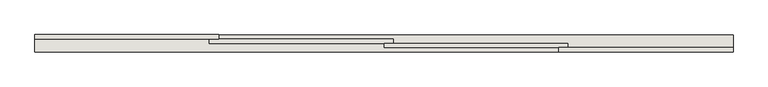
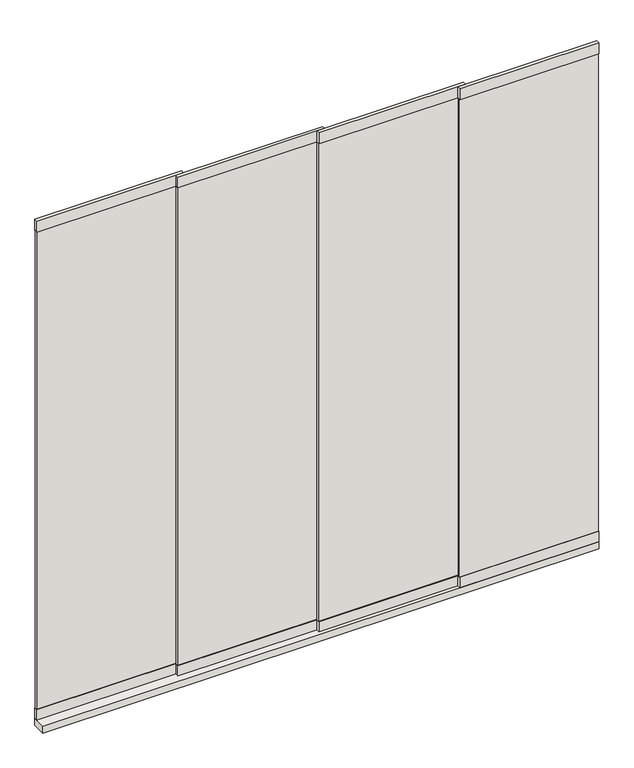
"""IFC4 building model written with IfcOpenShell, lengths in millimetres: wall geometry, Renson_Camargue_Glass_Sliding_Panel : Renson_Camargue_Glass_Sliding_Panel."""

from ifc_helpers import new_model, si_unit, frame, origin, origin_with_axes, place, context, project, spatial, polyline, outline, extrude, source, transform, mapped, element, save


def wall_8333f241(model_context):
    return source(origin(), model_context, "Body", "SweptSolid", [
        extrude(outline(polyline([(750.0, 0.0), (-1850.0, 0.0), (-1850.0, 64.0), (750.0, 64.0), (750.0, 0.0)])), origin_with_axes(), (0.0, 0.0, 1.0), 35.0),
        extrude(outline(polyline([(750.0, 3.0), (100.0, 3.0), (100.0, 13.0), (750.0, 13.0), (750.0, 3.0)])), frame((0.0, 0.0, 86.0), z_axis=(0.0, 0.0, 1.0), x_axis=(1.0, 0.0, 0.0)), (0.0, 0.0, 1.0), 2360.0),
        extrude(outline(polyline([(135.0, 19.0), (-550.0, 19.0), (-550.0, 29.0), (135.0, 29.0), (135.0, 19.0)])), frame((0.0, 0.0, 86.0), z_axis=(0.0, 0.0, 1.0), x_axis=(1.0, 0.0, 0.0)), (0.0, 0.0, 1.0), 2360.0),
        extrude(outline(polyline([(-1165.0, 51.0), (-1850.0, 51.0), (-1850.0, 61.0), (-1165.0, 61.0), (-1165.0, 51.0)])), frame((0.0, 0.0, 86.0), z_axis=(0.0, 0.0, 1.0), x_axis=(1.0, 0.0, 0.0)), (0.0, 0.0, 1.0), 2360.0),
        extrude(outline(polyline([(-1165.0, 48.0), (-1850.0, 48.0), (-1850.0, 64.0), (-1165.0, 64.0), (-1165.0, 48.0)])), frame((0.0, 0.0, 2446.0), z_axis=(0.0, 0.0, 1.0), x_axis=(1.0, 0.0, 0.0)), (0.0, 0.0, 1.0), 54.0),
        extrude(outline(polyline([(-1165.0, 48.0), (-1850.0, 48.0), (-1850.0, 64.0), (-1165.0, 64.0), (-1165.0, 48.0)])), frame((0.0, 0.0, 35.0), z_axis=(0.0, 0.0, 1.0), x_axis=(1.0, 0.0, 0.0)), (0.0, 0.0, 1.0), 51.0),
        extrude(outline(polyline([(-515.0, 35.0), (-1200.0, 35.0), (-1200.0, 45.0), (-515.0, 45.0), (-515.0, 35.0)])), frame((0.0, 0.0, 86.0), z_axis=(0.0, 0.0, 1.0), x_axis=(1.0, 0.0, 0.0)), (0.0, 0.0, 1.0), 2360.0),
        extrude(outline(polyline([(750.0, 0.0), (100.0, 0.0), (100.0, 16.0), (750.0, 16.0), (750.0, 0.0)])), frame((0.0, 0.0, 2446.0), z_axis=(0.0, 0.0, 1.0), x_axis=(1.0, 0.0, 0.0)), (0.0, 0.0, 1.0), 54.0),
        extrude(outline(polyline([(135.0, 16.0), (-550.0, 16.0), (-550.0, 32.0), (135.0, 32.0), (135.0, 16.0)])), frame((0.0, 0.0, 2446.0), z_axis=(0.0, 0.0, 1.0), x_axis=(1.0, 0.0, 0.0)), (0.0, 0.0, 1.0), 54.0),
        extrude(outline(polyline([(-515.0, 32.0), (-1200.0, 32.0), (-1200.0, 48.0), (-515.0, 48.0), (-515.0, 32.0)])), frame((0.0, 0.0, 2446.0), z_axis=(0.0, 0.0, 1.0), x_axis=(1.0, 0.0, 0.0)), (0.0, 0.0, 1.0), 54.0),
        extrude(outline(polyline([(750.0, 0.0), (100.0, 0.0), (100.0, 16.0), (750.0, 16.0), (750.0, 0.0)])), frame((0.0, 0.0, 35.0), z_axis=(0.0, 0.0, 1.0), x_axis=(1.0, 0.0, 0.0)), (0.0, 0.0, 1.0), 51.0),
        extrude(outline(polyline([(135.0, 16.0), (-550.0, 16.0), (-550.0, 32.0), (135.0, 32.0), (135.0, 16.0)])), frame((0.0, 0.0, 35.0), z_axis=(0.0, 0.0, 1.0), x_axis=(1.0, 0.0, 0.0)), (0.0, 0.0, 1.0), 51.0),
        extrude(outline(polyline([(-515.0, 32.0), (-1200.0, 32.0), (-1200.0, 48.0), (-515.0, 48.0), (-515.0, 32.0)])), frame((0.0, 0.0, 35.0), z_axis=(0.0, 0.0, 1.0), x_axis=(1.0, 0.0, 0.0)), (0.0, 0.0, 1.0), 51.0),
    ])


if __name__ == "__main__":
    model = new_model("IFC4")
    model_context = context("Model", 3, world=origin())
    ifc_project = project(units=[si_unit("LENGTHUNIT", "METRE", prefix="MILLI")], contexts=[model_context])
    site = spatial("IfcSite", under=ifc_project)
    building = spatial("IfcBuilding", under=site)
    placement = place(None, origin())
    wall_shape = wall_8333f241(model_context)
    element("IfcWall", 1, ObjectType="Renson_Camargue_Glass_Sliding_Panel : Renson_Camargue_Glass_Sliding_Panel", at=placement, inside=building, context=model_context, shape_type="MappedRepresentation", body=[
        mapped(wall_shape, transform((0.0, 0.0, 0.0), x_axis=(1.0, 0.0, 0.0), y_axis=(0.0, 1.0, 0.0), z_axis=(0.0, 0.0, 1.0))),
    ])
    save(model, "model.ifc")
